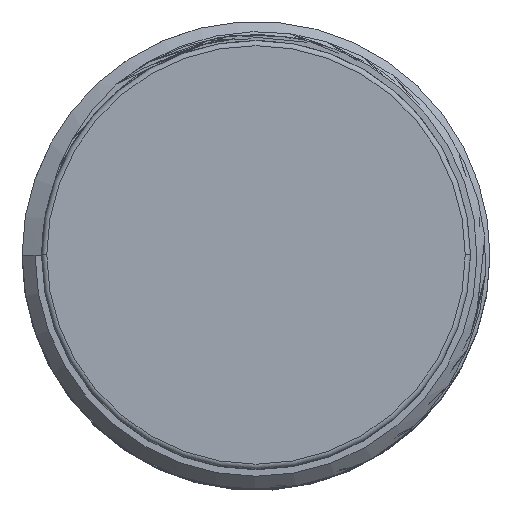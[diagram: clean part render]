
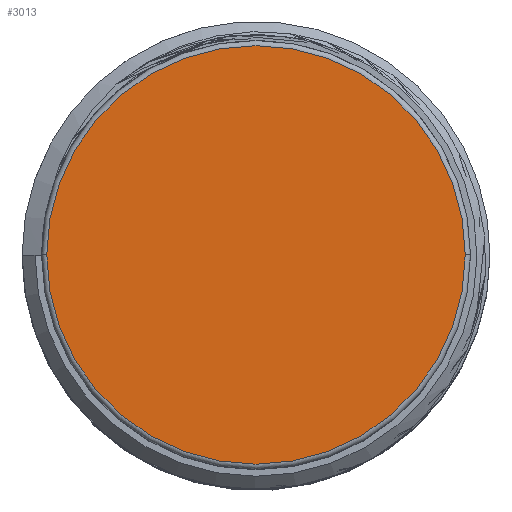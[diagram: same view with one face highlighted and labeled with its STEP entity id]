
A CAD part, top view. The second image highlights one B-rep face of the part: STEP entity #3013.
In plain terms, the highlighted planar face has unit normal (0, 0, 1).
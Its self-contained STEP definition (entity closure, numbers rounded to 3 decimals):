
#154 = AXIS2_PLACEMENT_3D ( 'NONE', #5385, #620, #4700 ) ;
#361 = CARTESIAN_POINT ( 'NONE',  ( 0., 0., 53. ) ) ;
#464 = DIRECTION ( 'NONE',  ( 0., 0., 1. ) ) ;
#477 = CIRCLE ( 'NONE', #4039, 8.05 ) ;
#620 = DIRECTION ( 'NONE',  ( 0., 0., 1. ) ) ;
#2254 = AXIS2_PLACEMENT_3D ( 'NONE', #361, #464, #6800 ) ;
#2537 = ORIENTED_EDGE ( 'NONE', *, *, #4010, .T. ) ;
#2576 = CARTESIAN_POINT ( 'NONE',  ( -8.05, 0., 53. ) ) ;
#2799 = VERTEX_POINT ( 'NONE', #2576 ) ;
#3013 = ADVANCED_FACE ( 'NONE', ( #6287 ), #4580, .T. ) ;
#3235 = CIRCLE ( 'NONE', #2254, 8.05 ) ;
#4010 = EDGE_CURVE ( 'NONE', #2799, #4183, #3235, .T. ) ;
#4039 = AXIS2_PLACEMENT_3D ( 'NONE', #5969, #6115, #6611 ) ;
#4183 = VERTEX_POINT ( 'NONE', #6310 ) ;
#4518 = ORIENTED_EDGE ( 'NONE', *, *, #7385, .T. ) ;
#4580 = PLANE ( 'NONE',  #154 ) ;
#4700 = DIRECTION ( 'NONE',  ( 1., 0., 0. ) ) ;
#4785 = EDGE_LOOP ( 'NONE', ( #4518, #2537 ) ) ;
#5385 = CARTESIAN_POINT ( 'NONE',  ( 0., 0., 53. ) ) ;
#5969 = CARTESIAN_POINT ( 'NONE',  ( 0., 0., 53. ) ) ;
#6115 = DIRECTION ( 'NONE',  ( 0., 0., 1. ) ) ;
#6287 = FACE_OUTER_BOUND ( 'NONE', #4785, .T. ) ;
#6310 = CARTESIAN_POINT ( 'NONE',  ( 8.05, 0., 53. ) ) ;
#6611 = DIRECTION ( 'NONE',  ( 1., 0., 0. ) ) ;
#6800 = DIRECTION ( 'NONE',  ( 1., 0., 0. ) ) ;
#7385 = EDGE_CURVE ( 'NONE', #4183, #2799, #477, .T. ) ;
